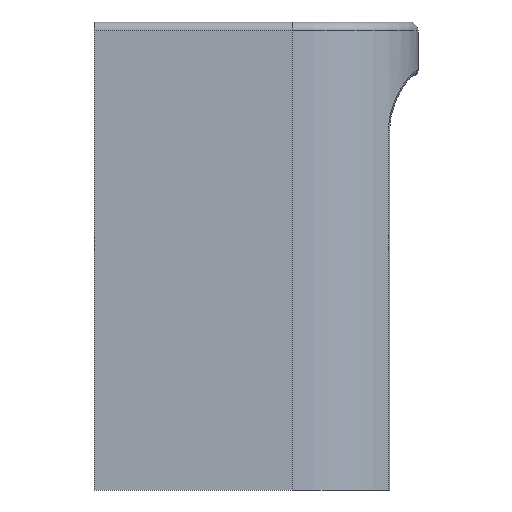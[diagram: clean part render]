
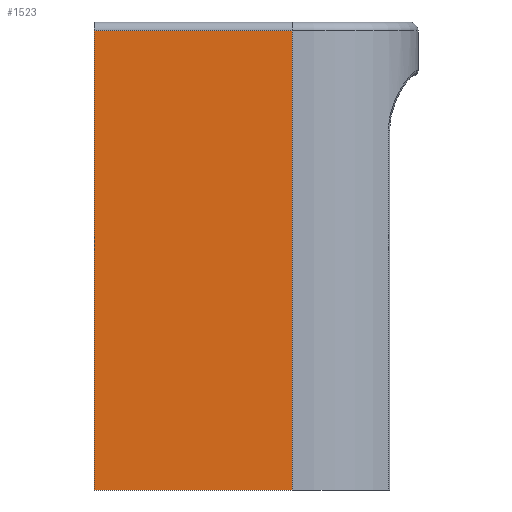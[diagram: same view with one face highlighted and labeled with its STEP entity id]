
A CAD part, left-side view. The second image highlights one B-rep face of the part: STEP entity #1523.
In plain terms, the highlighted planar face has unit normal (-1, 0, 0).
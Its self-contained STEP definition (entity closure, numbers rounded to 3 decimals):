
#44 = PLANE('',#45);
#45 = AXIS2_PLACEMENT_3D('',#46,#47,#48);
#46 = CARTESIAN_POINT('',(0.,0.,0.));
#47 = DIRECTION('',(0.,0.,1.));
#48 = DIRECTION('',(1.,0.,-0.));
#346 = EDGE_CURVE('',#347,#349,#351,.T.);
#347 = VERTEX_POINT('',#348);
#348 = CARTESIAN_POINT('',(0.,7.,0.));
#349 = VERTEX_POINT('',#350);
#350 = CARTESIAN_POINT('',(0.,18.,0.));
#351 = SURFACE_CURVE('',#352,(#356,#363),.PCURVE_S1.);
#352 = LINE('',#353,#354);
#353 = CARTESIAN_POINT('',(0.,0.,0.));
#354 = VECTOR('',#355,1.);
#355 = DIRECTION('',(-0.,1.,0.));
#356 = PCURVE('',#44,#357);
#357 = DEFINITIONAL_REPRESENTATION('',(#358),#362);
#358 = LINE('',#359,#360);
#359 = CARTESIAN_POINT('',(0.,0.));
#360 = VECTOR('',#361,1.);
#361 = DIRECTION('',(0.,1.));
#362 = ( GEOMETRIC_REPRESENTATION_CONTEXT(2)
PARAMETRIC_REPRESENTATION_CONTEXT() REPRESENTATION_CONTEXT('2D SPACE',''
  ) );
#363 = PCURVE('',#364,#369);
#364 = PLANE('',#365);
#365 = AXIS2_PLACEMENT_3D('',#366,#367,#368);
#366 = CARTESIAN_POINT('',(0.,0.,-132.));
#367 = DIRECTION('',(1.,0.,-0.));
#368 = DIRECTION('',(0.,0.,1.));
#369 = DEFINITIONAL_REPRESENTATION('',(#370),#374);
#370 = LINE('',#371,#372);
#371 = CARTESIAN_POINT('',(132.,0.));
#372 = VECTOR('',#373,1.);
#373 = DIRECTION('',(0.,-1.));
#374 = ( GEOMETRIC_REPRESENTATION_CONTEXT(2)
PARAMETRIC_REPRESENTATION_CONTEXT() REPRESENTATION_CONTEXT('2D SPACE',''
  ) );
#393 = CYLINDRICAL_SURFACE('',#394,7.);
#394 = AXIS2_PLACEMENT_3D('',#395,#396,#397);
#395 = CARTESIAN_POINT('',(7.,7.,-132.));
#396 = DIRECTION('',(0.,0.,1.));
#397 = DIRECTION('',(-1.,-0.,0.));
#497 = PLANE('',#498);
#498 = AXIS2_PLACEMENT_3D('',#499,#500,#501);
#499 = CARTESIAN_POINT('',(0.,18.,0.));
#500 = DIRECTION('',(-0.,1.,0.));
#501 = DIRECTION('',(0.,0.,1.));
#1523 = ADVANCED_FACE('',(#1524),#364,.F.);
#1524 = FACE_BOUND('',#1525,.F.);
#1525 = EDGE_LOOP('',(#1526,#1549,#1550,#1573));
#1526 = ORIENTED_EDGE('',*,*,#1527,.F.);
#1527 = EDGE_CURVE('',#347,#1528,#1530,.T.);
#1528 = VERTEX_POINT('',#1529);
#1529 = CARTESIAN_POINT('',(0.,7.,25.5));
#1530 = SURFACE_CURVE('',#1531,(#1535,#1542),.PCURVE_S1.);
#1531 = LINE('',#1532,#1533);
#1532 = CARTESIAN_POINT('',(0.,7.,-132.));
#1533 = VECTOR('',#1534,1.);
#1534 = DIRECTION('',(0.,0.,1.));
#1535 = PCURVE('',#364,#1536);
#1536 = DEFINITIONAL_REPRESENTATION('',(#1537),#1541);
#1537 = LINE('',#1538,#1539);
#1538 = CARTESIAN_POINT('',(0.,-7.));
#1539 = VECTOR('',#1540,1.);
#1540 = DIRECTION('',(1.,0.));
#1541 = ( GEOMETRIC_REPRESENTATION_CONTEXT(2)
PARAMETRIC_REPRESENTATION_CONTEXT() REPRESENTATION_CONTEXT('2D SPACE',''
  ) );
#1542 = PCURVE('',#393,#1543);
#1543 = DEFINITIONAL_REPRESENTATION('',(#1544),#1548);
#1544 = LINE('',#1545,#1546);
#1545 = CARTESIAN_POINT('',(0.,0.));
#1546 = VECTOR('',#1547,1.);
#1547 = DIRECTION('',(0.,1.));
#1548 = ( GEOMETRIC_REPRESENTATION_CONTEXT(2)
PARAMETRIC_REPRESENTATION_CONTEXT() REPRESENTATION_CONTEXT('2D SPACE',''
  ) );
#1549 = ORIENTED_EDGE('',*,*,#346,.T.);
#1550 = ORIENTED_EDGE('',*,*,#1551,.T.);
#1551 = EDGE_CURVE('',#349,#1552,#1554,.T.);
#1552 = VERTEX_POINT('',#1553);
#1553 = CARTESIAN_POINT('',(0.,18.,25.5));
#1554 = SURFACE_CURVE('',#1555,(#1559,#1566),.PCURVE_S1.);
#1555 = LINE('',#1556,#1557);
#1556 = CARTESIAN_POINT('',(0.,18.,0.));
#1557 = VECTOR('',#1558,1.);
#1558 = DIRECTION('',(0.,0.,1.));
#1559 = PCURVE('',#364,#1560);
#1560 = DEFINITIONAL_REPRESENTATION('',(#1561),#1565);
#1561 = LINE('',#1562,#1563);
#1562 = CARTESIAN_POINT('',(132.,-18.));
#1563 = VECTOR('',#1564,1.);
#1564 = DIRECTION('',(1.,0.));
#1565 = ( GEOMETRIC_REPRESENTATION_CONTEXT(2)
PARAMETRIC_REPRESENTATION_CONTEXT() REPRESENTATION_CONTEXT('2D SPACE',''
  ) );
#1566 = PCURVE('',#497,#1567);
#1567 = DEFINITIONAL_REPRESENTATION('',(#1568),#1572);
#1568 = LINE('',#1569,#1570);
#1569 = CARTESIAN_POINT('',(0.,0.));
#1570 = VECTOR('',#1571,1.);
#1571 = DIRECTION('',(1.,0.));
#1572 = ( GEOMETRIC_REPRESENTATION_CONTEXT(2)
PARAMETRIC_REPRESENTATION_CONTEXT() REPRESENTATION_CONTEXT('2D SPACE',''
  ) );
#1573 = ORIENTED_EDGE('',*,*,#1574,.F.);
#1574 = EDGE_CURVE('',#1528,#1552,#1575,.T.);
#1575 = SURFACE_CURVE('',#1576,(#1580,#1587),.PCURVE_S1.);
#1576 = LINE('',#1577,#1578);
#1577 = CARTESIAN_POINT('',(0.,7.,25.5));
#1578 = VECTOR('',#1579,1.);
#1579 = DIRECTION('',(-0.,1.,0.));
#1580 = PCURVE('',#364,#1581);
#1581 = DEFINITIONAL_REPRESENTATION('',(#1582),#1586);
#1582 = LINE('',#1583,#1584);
#1583 = CARTESIAN_POINT('',(157.5,-7.));
#1584 = VECTOR('',#1585,1.);
#1585 = DIRECTION('',(0.,-1.));
#1586 = ( GEOMETRIC_REPRESENTATION_CONTEXT(2)
PARAMETRIC_REPRESENTATION_CONTEXT() REPRESENTATION_CONTEXT('2D SPACE',''
  ) );
#1587 = PCURVE('',#1588,#1593);
#1588 = CYLINDRICAL_SURFACE('',#1589,0.5);
#1589 = AXIS2_PLACEMENT_3D('',#1590,#1591,#1592);
#1590 = CARTESIAN_POINT('',(0.5,7.,25.5));
#1591 = DIRECTION('',(-0.,1.,0.));
#1592 = DIRECTION('',(0.,0.,1.));
#1593 = DEFINITIONAL_REPRESENTATION('',(#1594),#1598);
#1594 = LINE('',#1595,#1596);
#1595 = CARTESIAN_POINT('',(-1.571,0.));
#1596 = VECTOR('',#1597,1.);
#1597 = DIRECTION('',(-0.,1.));
#1598 = ( GEOMETRIC_REPRESENTATION_CONTEXT(2)
PARAMETRIC_REPRESENTATION_CONTEXT() REPRESENTATION_CONTEXT('2D SPACE',''
  ) );
